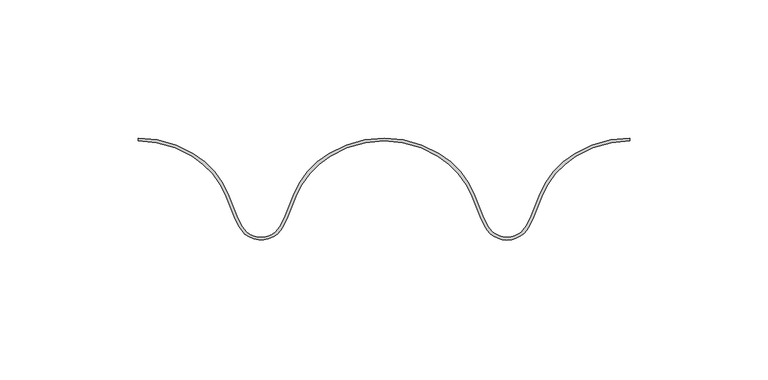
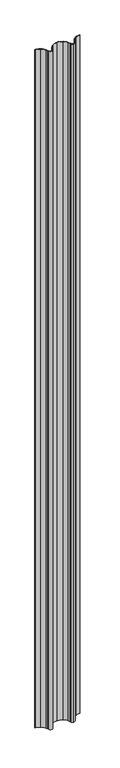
"""IFC4 building model written with IfcOpenShell, lengths in millimetres: plate geometry, Regolare Vertical 178 : Regolare Vertical 178."""

from ifc_helpers import new_model, si_unit, point, frame_2d, origin, origin_with_axes, place, context, project, spatial, polyline, circle_curve, trimmed, segment, composite_curve, outline, extrude, source, transform, mapped, element, save


def plate_ab0b9b8b(model_context):
    return source(origin(), model_context, "Body", "SweptSolid", [
        extrude(outline(composite_curve([segment(trimmed(circle_curve(frame_2d((85.4858438, -32.6206681)), 30.6166783), [point((69.5107389, -6.5021495))], [point((57.058754, -21.2504634))], True, "CARTESIAN"), True, "CONTINUOUS"), segment(polyline([(57.058754, -21.2504634), (54.1771681, -28.4448583), (52.5165434, -31.9093405)]), True, "CONTINUOUS"), segment(trimmed(circle_curve(frame_2d((44.5257445, -28.0791236)), 8.8613445), [point((52.5165434, -31.9093405))], [point((44.5257445, -36.9404682))], False, "CARTESIAN"), True, "CONTINUOUS"), segment(trimmed(circle_curve(frame_2d((44.5257445, -28.0791236)), 8.8613445), [point((44.5257445, -36.9404682))], [point((36.5349457, -31.9093405))], False, "CARTESIAN"), True, "CONTINUOUS"), segment(polyline([(36.5349457, -31.9093405), (34.874321, -28.4448583), (31.9927351, -21.2504634)]), True, "CONTINUOUS"), segment(trimmed(circle_curve(frame_2d((3.5656452, -32.6206681)), 30.6166783), [point((31.9927351, -21.2504634))], [point((19.5407501, -6.5021495))], True, "CARTESIAN"), True, "CONTINUOUS"), segment(trimmed(circle_curve(frame_2d((0.0, -38.4503244)), 37.4503244), [point((19.5407501, -6.5021495))], [point((0.0, -1.0))], True, "CARTESIAN"), True, "CONTINUOUS"), segment(trimmed(circle_curve(frame_2d((0.0, -38.4503244)), 37.4503244), [point((0.0, -1.0))], [point((-19.5407501, -6.5021495))], True, "CARTESIAN"), True, "CONTINUOUS"), segment(trimmed(circle_curve(frame_2d((-3.5656452, -32.6206681)), 30.6166783), [point((-19.5407501, -6.5021495))], [point((-31.9927351, -21.2504634))], True, "CARTESIAN"), True, "CONTINUOUS"), segment(polyline([(-31.9927351, -21.2504634), (-34.874321, -28.4448583), (-36.5349457, -31.9093405)]), True, "CONTINUOUS"), segment(trimmed(circle_curve(frame_2d((-44.5257445, -28.0791236)), 8.8613445), [point((-36.5349457, -31.9093405))], [point((-52.5165434, -31.9093405))], False, "CARTESIAN"), True, "CONTINUOUS"), segment(polyline([(-52.5165434, -31.9093405), (-54.1771681, -28.4448583), (-57.058754, -21.2504634)]), True, "CONTINUOUS"), segment(trimmed(circle_curve(frame_2d((-85.4858438, -32.6206681)), 30.6166783), [point((-57.058754, -21.2504634))], [point((-69.5107389, -6.5021495))], True, "CARTESIAN"), True, "CONTINUOUS"), segment(trimmed(circle_curve(frame_2d((-89.0514891, -38.4503244)), 37.4503244), [point((-69.5107389, -6.5021495))], [point((-89.0514891, -1.0))], True, "CARTESIAN"), True, "CONTINUOUS"), segment(polyline([(-89.0514891, -1.0), (-89.0514891, 0.0)]), True, "CONTINUOUS"), segment(trimmed(circle_curve(frame_2d((-89.0514891, -38.4503244)), 38.4503244), [point((-89.0514891, 0.0))], [point((-68.9889611, -5.6490681))], False, "CARTESIAN"), True, "CONTINUOUS"), segment(trimmed(circle_curve(frame_2d((-85.4858438, -32.6206681)), 31.6166783), [point((-68.9889611, -5.6490681))], [point((-56.1303596, -20.878867))], False, "CARTESIAN"), True, "CONTINUOUS"), segment(polyline([(-56.1303596, -20.878867), (-53.2611379, -28.0423924), (-51.6147842, -31.4771017)]), True, "CONTINUOUS"), segment(trimmed(circle_curve(frame_2d((-44.5257445, -28.0791236)), 7.8613445), [point((-51.6147842, -31.4771017))], [point((-37.4367049, -31.4771017))], True, "CARTESIAN"), True, "CONTINUOUS"), segment(polyline([(-37.4367049, -31.4771017), (-35.7903512, -28.0423924), (-32.9211295, -20.878867)]), True, "CONTINUOUS"), segment(trimmed(circle_curve(frame_2d((-3.5656452, -32.6206681)), 31.6166783), [point((-32.9211295, -20.878867))], [point((-20.062528, -5.6490681))], False, "CARTESIAN"), True, "CONTINUOUS"), segment(trimmed(circle_curve(frame_2d((0.0, -38.4503244)), 38.4503244), [point((-20.062528, -5.6490681))], [point((0.0, 0.0))], False, "CARTESIAN"), True, "CONTINUOUS"), segment(trimmed(circle_curve(frame_2d((0.0, -38.4503244)), 38.4503244), [point((0.0, 0.0))], [point((20.062528, -5.6490681))], False, "CARTESIAN"), True, "CONTINUOUS"), segment(trimmed(circle_curve(frame_2d((3.5656452, -32.6206681)), 31.6166783), [point((20.062528, -5.6490681))], [point((32.9211295, -20.878867))], False, "CARTESIAN"), True, "CONTINUOUS"), segment(polyline([(32.9211295, -20.878867), (35.7903512, -28.0423924), (37.4367049, -31.4771017)]), True, "CONTINUOUS"), segment(trimmed(circle_curve(frame_2d((44.5257445, -28.0791236)), 7.8613445), [point((37.4367049, -31.4771017))], [point((44.5257445, -35.9404682))], True, "CARTESIAN"), True, "CONTINUOUS"), segment(trimmed(circle_curve(frame_2d((44.5257445, -28.0791236)), 7.8613445), [point((44.5257445, -35.9404682))], [point((51.6147842, -31.4771017))], True, "CARTESIAN"), True, "CONTINUOUS"), segment(polyline([(51.6147842, -31.4771017), (53.2611379, -28.0423924), (56.1303596, -20.878867)]), True, "CONTINUOUS"), segment(trimmed(circle_curve(frame_2d((85.4858438, -32.6206681)), 31.6166783), [point((56.1303596, -20.878867))], [point((68.9889611, -5.6490681))], False, "CARTESIAN"), True, "CONTINUOUS"), segment(trimmed(circle_curve(frame_2d((89.0514891, -38.4503244)), 38.4503244), [point((68.9889611, -5.6490681))], [point((89.0514891, 0.0))], False, "CARTESIAN"), True, "CONTINUOUS"), segment(polyline([(89.0514891, 0.0), (89.0514891, -1.0)]), True, "CONTINUOUS"), segment(trimmed(circle_curve(frame_2d((89.0514891, -38.4503244)), 37.4503244), [point((89.0514891, -1.0))], [point((69.5107389, -6.5021495))], True, "CARTESIAN"), True, "CONTINUOUS")], self_intersect=False)), origin_with_axes(), (0.0, 0.0, 1.0), 2859.2009216),
    ])


if __name__ == "__main__":
    model = new_model("IFC4")
    model_context = context("Model", 3, world=origin())
    ifc_project = project(units=[si_unit("LENGTHUNIT", "METRE", prefix="MILLI")], contexts=[model_context])
    site = spatial("IfcSite", under=ifc_project)
    building = spatial("IfcBuilding", under=site)
    placement = place(None, origin())
    plate_shape = plate_ab0b9b8b(model_context)
    element("IfcPlate", 1, ObjectType="Regolare Vertical 178 : Regolare Vertical 178", at=placement, inside=building, context=model_context, shape_type="MappedRepresentation", body=[
        mapped(plate_shape, transform((0.0, 0.0, 0.0), x_axis=(1.0, 0.0, 0.0), y_axis=(0.0, 1.0, 0.0), z_axis=(0.0, 0.0, 1.0))),
    ])
    save(model, "model.ifc")
